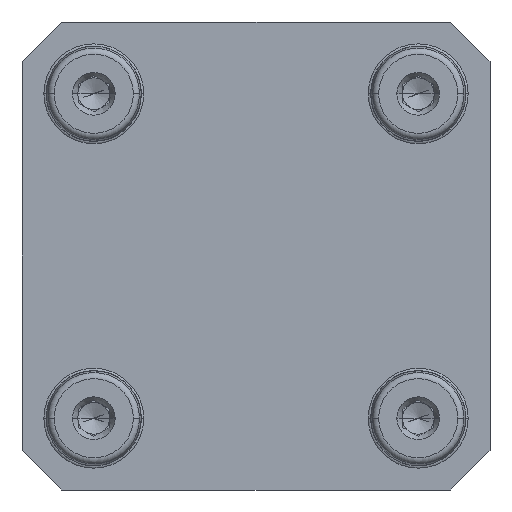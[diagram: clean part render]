
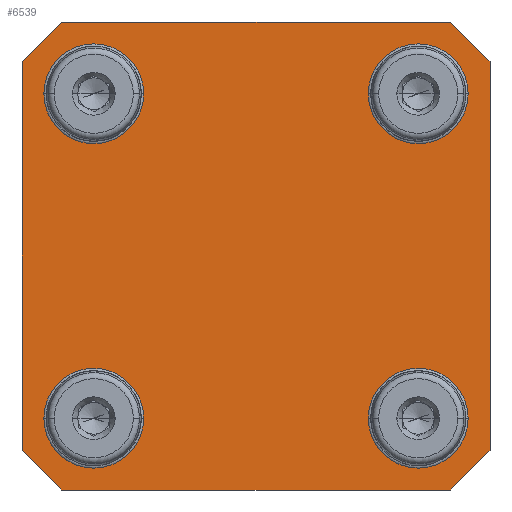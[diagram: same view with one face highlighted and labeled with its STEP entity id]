
A CAD part, front view. The second image highlights one B-rep face of the part: STEP entity #6539.
In plain terms, the highlighted planar face has unit normal (0, -1, 0).
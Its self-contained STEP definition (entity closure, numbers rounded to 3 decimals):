
#243 = CARTESIAN_POINT ( 'NONE',  ( -37.5, 0., -31.15 ) ) ;
#1108 = VERTEX_POINT ( 'NONE', #9828 ) ;
#1383 = LINE ( 'NONE', #9499, #20831 ) ;
#1526 = VECTOR ( 'NONE', #30084, 1000. ) ;
#1544 = EDGE_CURVE ( 'NONE', #12981, #1108, #17361, .T. ) ;
#1679 = EDGE_CURVE ( 'NONE', #9859, #28138, #31320, .T. ) ;
#1750 = DIRECTION ( 'NONE',  ( 0., 0., -1. ) ) ;
#1774 = VERTEX_POINT ( 'NONE', #243 ) ;
#1950 = DIRECTION ( 'NONE',  ( -1., 0., 0. ) ) ;
#2086 = VERTEX_POINT ( 'NONE', #22989 ) ;
#2116 = ORIENTED_EDGE ( 'NONE', *, *, #28206, .F. ) ;
#3391 = LINE ( 'NONE', #10682, #27705 ) ;
#4412 = CIRCLE ( 'NONE', #28427, 6.008 ) ;
#5021 = AXIS2_PLACEMENT_3D ( 'NONE', #25214, #10650, #27628 ) ;
#5451 = CARTESIAN_POINT ( 'NONE',  ( 26., 0., -32.008 ) ) ;
#6132 = VERTEX_POINT ( 'NONE', #31445 ) ;
#6156 = AXIS2_PLACEMENT_3D ( 'NONE', #14162, #31118, #16629 ) ;
#6493 = ORIENTED_EDGE ( 'NONE', *, *, #1544, .F. ) ;
#6539 = ADVANCED_FACE ( 'NONE', ( #20006, #13511, #26434, #7015, #20763 ), #8821, .T. ) ;
#6707 = ORIENTED_EDGE ( 'NONE', *, *, #18330, .T. ) ;
#6818 = LINE ( 'NONE', #7943, #19033 ) ;
#7015 = FACE_BOUND ( 'NONE', #21890, .T. ) ;
#7452 = EDGE_CURVE ( 'NONE', #9859, #16261, #11546, .T. ) ;
#7943 = CARTESIAN_POINT ( 'NONE',  ( -34.325, 0., -34.325 ) ) ;
#7985 = EDGE_CURVE ( 'NONE', #21388, #30280, #1383, .T. ) ;
#7987 = EDGE_CURVE ( 'NONE', #12162, #16261, #25758, .T. ) ;
#8084 = CARTESIAN_POINT ( 'NONE',  ( 31.15, 0., 37.5 ) ) ;
#8236 = ORIENTED_EDGE ( 'NONE', *, *, #29550, .F. ) ;
#8337 = ORIENTED_EDGE ( 'NONE', *, *, #7452, .T. ) ;
#8364 = CARTESIAN_POINT ( 'NONE',  ( 37.5, 0., -31.15 ) ) ;
#8678 = CARTESIAN_POINT ( 'NONE',  ( -31.15, 0., -37.5 ) ) ;
#8771 = LINE ( 'NONE', #27654, #1526 ) ;
#8821 = PLANE ( 'NONE',  #14374 ) ;
#8870 = DIRECTION ( 'NONE',  ( 0., -1., 0. ) ) ;
#8913 = DIRECTION ( 'NONE',  ( 0., -1., 0. ) ) ;
#9137 = DIRECTION ( 'NONE',  ( 0., -1., 0. ) ) ;
#9302 = CIRCLE ( 'NONE', #26588, 6.008 ) ;
#9499 = CARTESIAN_POINT ( 'NONE',  ( -34.325, 0., 34.325 ) ) ;
#9828 = CARTESIAN_POINT ( 'NONE',  ( -26., 0., 32.008 ) ) ;
#9859 = VERTEX_POINT ( 'NONE', #19849 ) ;
#10084 = DIRECTION ( 'NONE',  ( 0., -1., 0. ) ) ;
#10213 = LINE ( 'NONE', #22390, #16715 ) ;
#10650 = DIRECTION ( 'NONE',  ( 0., -1., 0. ) ) ;
#10682 = CARTESIAN_POINT ( 'NONE',  ( 34.325, 0., 34.325 ) ) ;
#10909 = ORIENTED_EDGE ( 'NONE', *, *, #1679, .F. ) ;
#10961 = CIRCLE ( 'NONE', #28806, 6.008 ) ;
#11546 = LINE ( 'NONE', #31376, #30130 ) ;
#11755 = CARTESIAN_POINT ( 'NONE',  ( -26., 0., -19.992 ) ) ;
#11896 = DIRECTION ( 'NONE',  ( 0., -1., 0. ) ) ;
#12049 = AXIS2_PLACEMENT_3D ( 'NONE', #23467, #8870, #25897 ) ;
#12162 = VERTEX_POINT ( 'NONE', #22937 ) ;
#12468 = DIRECTION ( 'NONE',  ( 0., 0., -1. ) ) ;
#12673 = EDGE_CURVE ( 'NONE', #1774, #30280, #10213, .T. ) ;
#12726 = EDGE_CURVE ( 'NONE', #15739, #6132, #28055, .T. ) ;
#12960 = EDGE_CURVE ( 'NONE', #17985, #16603, #17460, .T. ) ;
#12981 = VERTEX_POINT ( 'NONE', #26344 ) ;
#13012 = EDGE_CURVE ( 'NONE', #1108, #12981, #10961, .T. ) ;
#13156 = EDGE_CURVE ( 'NONE', #6132, #15739, #9302, .T. ) ;
#13511 = FACE_BOUND ( 'NONE', #23183, .T. ) ;
#14151 = DIRECTION ( 'NONE',  ( 0., -1., 0. ) ) ;
#14162 = CARTESIAN_POINT ( 'NONE',  ( 26., 0., -26. ) ) ;
#14322 = EDGE_LOOP ( 'NONE', ( #28908, #23416, #17523, #30639, #23445, #6707, #10909, #8337 ) ) ;
#14350 = VECTOR ( 'NONE', #12468, 1000. ) ;
#14374 = AXIS2_PLACEMENT_3D ( 'NONE', #23526, #8913, #25941 ) ;
#14386 = DIRECTION ( 'NONE',  ( -0.707, 0., -0.707 ) ) ;
#15011 = VERTEX_POINT ( 'NONE', #5451 ) ;
#15739 = VERTEX_POINT ( 'NONE', #25704 ) ;
#16182 = CARTESIAN_POINT ( 'NONE',  ( -26., 0., -32.008 ) ) ;
#16261 = VERTEX_POINT ( 'NONE', #8364 ) ;
#16379 = DIRECTION ( 'NONE',  ( 0., -1., 0. ) ) ;
#16494 = CIRCLE ( 'NONE', #6156, 6.008 ) ;
#16603 = VERTEX_POINT ( 'NONE', #11755 ) ;
#16629 = DIRECTION ( 'NONE',  ( 0., 0., -1. ) ) ;
#16715 = VECTOR ( 'NONE', #29731, 1000. ) ;
#16952 = VECTOR ( 'NONE', #1950, 1000. ) ;
#17361 = CIRCLE ( 'NONE', #12049, 6.008 ) ;
#17460 = CIRCLE ( 'NONE', #20701, 6.008 ) ;
#17523 = ORIENTED_EDGE ( 'NONE', *, *, #30393, .F. ) ;
#17806 = ORIENTED_EDGE ( 'NONE', *, *, #12960, .F. ) ;
#17985 = VERTEX_POINT ( 'NONE', #16182 ) ;
#18330 = EDGE_CURVE ( 'NONE', #1774, #28138, #6818, .T. ) ;
#18785 = ORIENTED_EDGE ( 'NONE', *, *, #13012, .F. ) ;
#19033 = VECTOR ( 'NONE', #27477, 1000. ) ;
#19849 = CARTESIAN_POINT ( 'NONE',  ( 31.15, 0., -37.5 ) ) ;
#19902 = CIRCLE ( 'NONE', #26284, 6.008 ) ;
#20006 = FACE_BOUND ( 'NONE', #23410, .T. ) ;
#20701 = AXIS2_PLACEMENT_3D ( 'NONE', #28665, #14151, #31105 ) ;
#20763 = FACE_OUTER_BOUND ( 'NONE', #14322, .T. ) ;
#20831 = VECTOR ( 'NONE', #14386, 1000. ) ;
#21265 = EDGE_LOOP ( 'NONE', ( #30044, #29887 ) ) ;
#21388 = VERTEX_POINT ( 'NONE', #31078 ) ;
#21890 = EDGE_LOOP ( 'NONE', ( #6493, #18785 ) ) ;
#22327 = EDGE_CURVE ( 'NONE', #15011, #2086, #16494, .T. ) ;
#22390 = CARTESIAN_POINT ( 'NONE',  ( -37.5, 0., 37.5 ) ) ;
#22937 = CARTESIAN_POINT ( 'NONE',  ( 37.5, 0., 31.15 ) ) ;
#22989 = CARTESIAN_POINT ( 'NONE',  ( 26., 0., -19.992 ) ) ;
#23183 = EDGE_LOOP ( 'NONE', ( #27672, #2116 ) ) ;
#23410 = EDGE_LOOP ( 'NONE', ( #17806, #8236 ) ) ;
#23416 = ORIENTED_EDGE ( 'NONE', *, *, #26217, .T. ) ;
#23445 = ORIENTED_EDGE ( 'NONE', *, *, #12673, .F. ) ;
#23467 = CARTESIAN_POINT ( 'NONE',  ( -26., 0., 26. ) ) ;
#23526 = CARTESIAN_POINT ( 'NONE',  ( 0., 0., 0. ) ) ;
#23734 = CARTESIAN_POINT ( 'NONE',  ( -26., 0., -26. ) ) ;
#24002 = CARTESIAN_POINT ( 'NONE',  ( -37.5, 0., -37.5 ) ) ;
#24659 = CARTESIAN_POINT ( 'NONE',  ( 26., 0., 26. ) ) ;
#25023 = VERTEX_POINT ( 'NONE', #8084 ) ;
#25038 = CARTESIAN_POINT ( 'NONE',  ( -37.5, 0., 31.15 ) ) ;
#25214 = CARTESIAN_POINT ( 'NONE',  ( 26., 0., 26. ) ) ;
#25351 = DIRECTION ( 'NONE',  ( -0.707, 0., 0.707 ) ) ;
#25704 = CARTESIAN_POINT ( 'NONE',  ( 26., 0., 19.992 ) ) ;
#25758 = LINE ( 'NONE', #27015, #14350 ) ;
#25897 = DIRECTION ( 'NONE',  ( 0., 0., -1. ) ) ;
#25941 = DIRECTION ( 'NONE',  ( 0., 0., -1. ) ) ;
#26151 = DIRECTION ( 'NONE',  ( 0., 0., 1. ) ) ;
#26217 = EDGE_CURVE ( 'NONE', #12162, #25023, #3391, .T. ) ;
#26284 = AXIS2_PLACEMENT_3D ( 'NONE', #23734, #9137, #26151 ) ;
#26344 = CARTESIAN_POINT ( 'NONE',  ( -26., 0., 19.992 ) ) ;
#26434 = FACE_BOUND ( 'NONE', #21265, .T. ) ;
#26446 = CARTESIAN_POINT ( 'NONE',  ( -26., 0., 26. ) ) ;
#26588 = AXIS2_PLACEMENT_3D ( 'NONE', #24659, #10084, #27071 ) ;
#27015 = CARTESIAN_POINT ( 'NONE',  ( 37.5, 0., 37.5 ) ) ;
#27071 = DIRECTION ( 'NONE',  ( 0., 0., 1. ) ) ;
#27477 = DIRECTION ( 'NONE',  ( 0.707, 0., -0.707 ) ) ;
#27628 = DIRECTION ( 'NONE',  ( 0., 0., 1. ) ) ;
#27654 = CARTESIAN_POINT ( 'NONE',  ( -37.5, 0., 37.5 ) ) ;
#27672 = ORIENTED_EDGE ( 'NONE', *, *, #22327, .F. ) ;
#27705 = VECTOR ( 'NONE', #25351, 1000. ) ;
#28055 = CIRCLE ( 'NONE', #5021, 6.008 ) ;
#28138 = VERTEX_POINT ( 'NONE', #8678 ) ;
#28206 = EDGE_CURVE ( 'NONE', #2086, #15011, #4412, .T. ) ;
#28427 = AXIS2_PLACEMENT_3D ( 'NONE', #30857, #16379, #1750 ) ;
#28665 = CARTESIAN_POINT ( 'NONE',  ( -26., 0., -26. ) ) ;
#28806 = AXIS2_PLACEMENT_3D ( 'NONE', #26446, #11896, #28881 ) ;
#28881 = DIRECTION ( 'NONE',  ( 0., 0., -1. ) ) ;
#28908 = ORIENTED_EDGE ( 'NONE', *, *, #7987, .F. ) ;
#29550 = EDGE_CURVE ( 'NONE', #16603, #17985, #19902, .T. ) ;
#29731 = DIRECTION ( 'NONE',  ( 0., 0., 1. ) ) ;
#29887 = ORIENTED_EDGE ( 'NONE', *, *, #13156, .F. ) ;
#30044 = ORIENTED_EDGE ( 'NONE', *, *, #12726, .F. ) ;
#30084 = DIRECTION ( 'NONE',  ( 1., 0., 0. ) ) ;
#30130 = VECTOR ( 'NONE', #31493, 1000. ) ;
#30280 = VERTEX_POINT ( 'NONE', #25038 ) ;
#30393 = EDGE_CURVE ( 'NONE', #21388, #25023, #8771, .T. ) ;
#30639 = ORIENTED_EDGE ( 'NONE', *, *, #7985, .T. ) ;
#30857 = CARTESIAN_POINT ( 'NONE',  ( 26., 0., -26. ) ) ;
#31078 = CARTESIAN_POINT ( 'NONE',  ( -31.15, 0., 37.5 ) ) ;
#31105 = DIRECTION ( 'NONE',  ( 0., 0., 1. ) ) ;
#31118 = DIRECTION ( 'NONE',  ( 0., -1., 0. ) ) ;
#31320 = LINE ( 'NONE', #24002, #16952 ) ;
#31376 = CARTESIAN_POINT ( 'NONE',  ( 34.325, 0., -34.325 ) ) ;
#31445 = CARTESIAN_POINT ( 'NONE',  ( 26., 0., 32.008 ) ) ;
#31493 = DIRECTION ( 'NONE',  ( 0.707, 0., 0.707 ) ) ;
